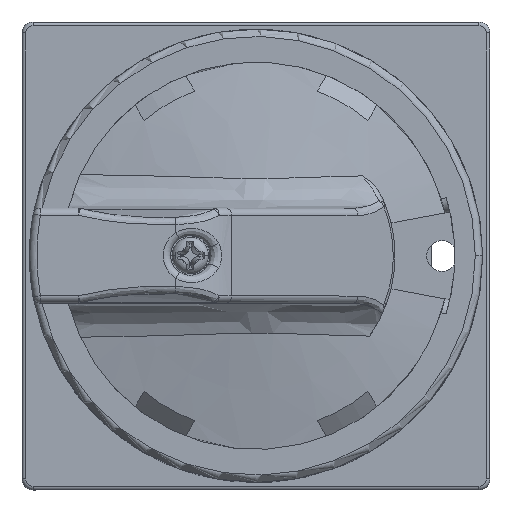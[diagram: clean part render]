
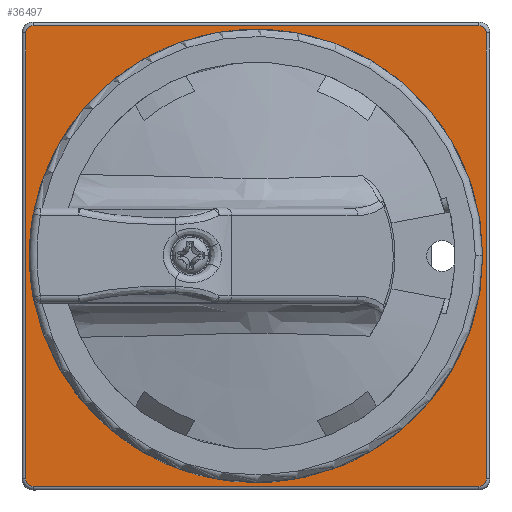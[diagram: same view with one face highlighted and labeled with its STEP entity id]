
A CAD part, top view. The second image highlights one B-rep face of the part: STEP entity #36497.
In plain terms, the highlighted planar face has unit normal (0, 0, 1).
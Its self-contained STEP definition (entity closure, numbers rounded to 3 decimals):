
#2736 = CIRCLE ( 'NONE', #63583, 31. ) ;
#6518 = CARTESIAN_POINT ( 'NONE',  ( 36.861, -35.611, -128.982 ) ) ;
#6716 = EDGE_CURVE ( 'NONE', #50985, #119041, #73628, .T. ) ;
#7394 = ORIENTED_EDGE ( 'NONE', *, *, #16895, .F. ) ;
#8711 = CIRCLE ( 'NONE', #85246, 31. ) ;
#11006 = CIRCLE ( 'NONE', #54121, 1. ) ;
#11140 = CARTESIAN_POINT ( 'NONE',  ( 37.861, -35.611, -128.982 ) ) ;
#13862 = CARTESIAN_POINT ( 'NONE',  ( 37.861, 25.389, -128.982 ) ) ;
#14448 = DIRECTION ( 'NONE',  ( 0., 0., 1. ) ) ;
#14853 = DIRECTION ( 'NONE',  ( 1., 0., 0. ) ) ;
#14948 = CARTESIAN_POINT ( 'NONE',  ( 36.861, 26.389, -128.982 ) ) ;
#16477 = CARTESIAN_POINT ( 'NONE',  ( 37.361, -5.111, -128.982 ) ) ;
#16895 = EDGE_CURVE ( 'NONE', #136521, #49610, #105586, .T. ) ;
#19299 = DIRECTION ( 'NONE',  ( 0., 1., 0. ) ) ;
#20540 = CIRCLE ( 'NONE', #58147, 1. ) ;
#21284 = DIRECTION ( 'NONE',  ( 1., 0., 0. ) ) ;
#22777 = AXIS2_PLACEMENT_3D ( 'NONE', #6518, #54352, #31686 ) ;
#22938 = ORIENTED_EDGE ( 'NONE', *, *, #35065, .T. ) ;
#23389 = FACE_OUTER_BOUND ( 'NONE', #90765, .T. ) ;
#23512 = AXIS2_PLACEMENT_3D ( 'NONE', #140009, #67568, #151367 ) ;
#24473 = CARTESIAN_POINT ( 'NONE',  ( 6.361, -5.111, -128.982 ) ) ;
#25974 = LINE ( 'NONE', #29658, #147441 ) ;
#26861 = AXIS2_PLACEMENT_3D ( 'NONE', #118205, #96468, #14853 ) ;
#28813 = CARTESIAN_POINT ( 'NONE',  ( 6.361, -5.111, -128.982 ) ) ;
#29658 = CARTESIAN_POINT ( 'NONE',  ( 37.861, 25.389, -128.982 ) ) ;
#30221 = VERTEX_POINT ( 'NONE', #43196 ) ;
#31075 = EDGE_CURVE ( 'NONE', #40633, #88138, #61895, .T. ) ;
#31297 = VERTEX_POINT ( 'NONE', #14948 ) ;
#31686 = DIRECTION ( 'NONE',  ( 1., 0., 0. ) ) ;
#32966 = EDGE_CURVE ( 'NONE', #119041, #136521, #8711, .T. ) ;
#33769 = AXIS2_PLACEMENT_3D ( 'NONE', #118800, #14448, #130114 ) ;
#35065 = EDGE_CURVE ( 'NONE', #41500, #31297, #20540, .T. ) ;
#35215 = EDGE_CURVE ( 'NONE', #151938, #41500, #25974, .T. ) ;
#36497 = ADVANCED_FACE ( 'NONE', ( #111522, #23389 ), #137399, .T. ) ;
#38469 = ORIENTED_EDGE ( 'NONE', *, *, #6716, .F. ) ;
#39302 = CARTESIAN_POINT ( 'NONE',  ( 25.196, -29.733, -128.982 ) ) ;
#39641 = ORIENTED_EDGE ( 'NONE', *, *, #31075, .F. ) ;
#39974 = ORIENTED_EDGE ( 'NONE', *, *, #35215, .T. ) ;
#40633 = VERTEX_POINT ( 'NONE', #57822 ) ;
#41500 = VERTEX_POINT ( 'NONE', #13862 ) ;
#42114 = CARTESIAN_POINT ( 'NONE',  ( 6.361, -5.111, -128.982 ) ) ;
#43196 = CARTESIAN_POINT ( 'NONE',  ( -25.139, 25.389, -128.982 ) ) ;
#43721 = VERTEX_POINT ( 'NONE', #88049 ) ;
#46217 = CIRCLE ( 'NONE', #137796, 31. ) ;
#49610 = VERTEX_POINT ( 'NONE', #145164 ) ;
#50985 = VERTEX_POINT ( 'NONE', #39302 ) ;
#52605 = EDGE_CURVE ( 'NONE', #88138, #96905, #151807, .T. ) ;
#54121 = AXIS2_PLACEMENT_3D ( 'NONE', #61496, #63523, #75298 ) ;
#54352 = DIRECTION ( 'NONE',  ( 0., 0., 1. ) ) ;
#54837 = CARTESIAN_POINT ( 'NONE',  ( 6.361, -5.111, -128.982 ) ) ;
#57207 = DIRECTION ( 'NONE',  ( 0., 0., 1. ) ) ;
#57801 = CARTESIAN_POINT ( 'NONE',  ( 6.361, -5.111, -128.982 ) ) ;
#57822 = CARTESIAN_POINT ( 'NONE',  ( -5.545, 23.512, -128.982 ) ) ;
#58147 = AXIS2_PLACEMENT_3D ( 'NONE', #88162, #123185, #110804 ) ;
#58542 = CARTESIAN_POINT ( 'NONE',  ( -24.639, -5.111, -128.982 ) ) ;
#58552 = ORIENTED_EDGE ( 'NONE', *, *, #59823, .T. ) ;
#58685 = CARTESIAN_POINT ( 'NONE',  ( 6.361, -5.111, -128.982 ) ) ;
#59823 = EDGE_CURVE ( 'NONE', #30221, #121292, #113470, .T. ) ;
#61190 = CARTESIAN_POINT ( 'NONE',  ( -24.139, 26.389, -128.982 ) ) ;
#61496 = CARTESIAN_POINT ( 'NONE',  ( -24.139, -35.611, -128.982 ) ) ;
#61895 = CIRCLE ( 'NONE', #33769, 31. ) ;
#63523 = DIRECTION ( 'NONE',  ( 0., 0., 1. ) ) ;
#63583 = AXIS2_PLACEMENT_3D ( 'NONE', #54837, #136991, #66617 ) ;
#63758 = DIRECTION ( 'NONE',  ( 1., 0., 0. ) ) ;
#64692 = AXIS2_PLACEMENT_3D ( 'NONE', #24473, #106192, #141713 ) ;
#65963 = ORIENTED_EDGE ( 'NONE', *, *, #149792, .T. ) ;
#66066 = ORIENTED_EDGE ( 'NONE', *, *, #83028, .F. ) ;
#66617 = DIRECTION ( 'NONE',  ( 1., 0., 0. ) ) ;
#67568 = DIRECTION ( 'NONE',  ( 0., 0., 1. ) ) ;
#67596 = CARTESIAN_POINT ( 'NONE',  ( 36.861, -36.611, -128.982 ) ) ;
#68633 = VECTOR ( 'NONE', #83051, 1000. ) ;
#68996 = DIRECTION ( 'NONE',  ( 1., 0., 0. ) ) ;
#70172 = ORIENTED_EDGE ( 'NONE', *, *, #127679, .T. ) ;
#73628 = CIRCLE ( 'NONE', #23512, 31. ) ;
#75298 = DIRECTION ( 'NONE',  ( 1., 0., 0. ) ) ;
#76040 = AXIS2_PLACEMENT_3D ( 'NONE', #149255, #136880, #138422 ) ;
#79245 = EDGE_CURVE ( 'NONE', #117729, #121596, #123753, .T. ) ;
#80006 = DIRECTION ( 'NONE',  ( 1., 0., 0. ) ) ;
#80510 = DIRECTION ( 'NONE',  ( -1., 0., 0. ) ) ;
#83028 = EDGE_CURVE ( 'NONE', #49610, #40633, #46217, .T. ) ;
#83051 = DIRECTION ( 'NONE',  ( 1., 0., 0. ) ) ;
#84010 = LINE ( 'NONE', #149489, #139321 ) ;
#85246 = AXIS2_PLACEMENT_3D ( 'NONE', #58685, #57207, #68996 ) ;
#88049 = CARTESIAN_POINT ( 'NONE',  ( 18.268, -33.733, -128.982 ) ) ;
#88138 = VERTEX_POINT ( 'NONE', #147313 ) ;
#88162 = CARTESIAN_POINT ( 'NONE',  ( 36.861, 25.389, -128.982 ) ) ;
#89233 = DIRECTION ( 'NONE',  ( 0., 0., 1. ) ) ;
#90765 = EDGE_LOOP ( 'NONE', ( #138910, #65963, #39974, #22938, #70172, #135985, #58552, #101166 ) ) ;
#93620 = EDGE_CURVE ( 'NONE', #96905, #43721, #142717, .T. ) ;
#96468 = DIRECTION ( 'NONE',  ( 0., 0., 1. ) ) ;
#96905 = VERTEX_POINT ( 'NONE', #58542 ) ;
#97338 = CARTESIAN_POINT ( 'NONE',  ( -25.139, -35.611, -128.982 ) ) ;
#100823 = ORIENTED_EDGE ( 'NONE', *, *, #123759, .F. ) ;
#101166 = ORIENTED_EDGE ( 'NONE', *, *, #130590, .T. ) ;
#105586 = CIRCLE ( 'NONE', #64692, 31. ) ;
#106192 = DIRECTION ( 'NONE',  ( 0., 0., 1. ) ) ;
#107064 = VERTEX_POINT ( 'NONE', #61190 ) ;
#110355 = AXIS2_PLACEMENT_3D ( 'NONE', #57801, #128683, #21284 ) ;
#110804 = DIRECTION ( 'NONE',  ( 1., 0., 0. ) ) ;
#111024 = DIRECTION ( 'NONE',  ( 0., 0., 1. ) ) ;
#111522 = FACE_BOUND ( 'NONE', #142926, .T. ) ;
#111911 = CARTESIAN_POINT ( 'NONE',  ( -24.139, -36.611, -128.982 ) ) ;
#113470 = LINE ( 'NONE', #150235, #144745 ) ;
#116061 = AXIS2_PLACEMENT_3D ( 'NONE', #28813, #111024, #63758 ) ;
#117295 = EDGE_CURVE ( 'NONE', #107064, #30221, #143660, .T. ) ;
#117384 = CARTESIAN_POINT ( 'NONE',  ( 25.196, 19.512, -128.982 ) ) ;
#117729 = VERTEX_POINT ( 'NONE', #111911 ) ;
#118089 = CARTESIAN_POINT ( 'NONE',  ( 36.861, -36.611, -128.982 ) ) ;
#118205 = CARTESIAN_POINT ( 'NONE',  ( -24.139, 25.389, -128.982 ) ) ;
#118800 = CARTESIAN_POINT ( 'NONE',  ( 6.361, -5.111, -128.982 ) ) ;
#119041 = VERTEX_POINT ( 'NONE', #16477 ) ;
#121292 = VERTEX_POINT ( 'NONE', #97338 ) ;
#121596 = VERTEX_POINT ( 'NONE', #67596 ) ;
#123185 = DIRECTION ( 'NONE',  ( 0., 0., 1. ) ) ;
#123753 = LINE ( 'NONE', #118089, #68633 ) ;
#123759 = EDGE_CURVE ( 'NONE', #43721, #50985, #2736, .T. ) ;
#126707 = CIRCLE ( 'NONE', #22777, 1. ) ;
#126950 = ORIENTED_EDGE ( 'NONE', *, *, #93620, .F. ) ;
#127679 = EDGE_CURVE ( 'NONE', #31297, #107064, #84010, .T. ) ;
#128683 = DIRECTION ( 'NONE',  ( 0., 0., 1. ) ) ;
#130114 = DIRECTION ( 'NONE',  ( 1., 0., 0. ) ) ;
#130590 = EDGE_CURVE ( 'NONE', #121292, #117729, #11006, .T. ) ;
#135985 = ORIENTED_EDGE ( 'NONE', *, *, #117295, .T. ) ;
#136521 = VERTEX_POINT ( 'NONE', #117384 ) ;
#136880 = DIRECTION ( 'NONE',  ( 0., 0., 1. ) ) ;
#136991 = DIRECTION ( 'NONE',  ( 0., 0., 1. ) ) ;
#137399 = PLANE ( 'NONE',  #76040 ) ;
#137796 = AXIS2_PLACEMENT_3D ( 'NONE', #42114, #89233, #80006 ) ;
#138051 = ORIENTED_EDGE ( 'NONE', *, *, #32966, .F. ) ;
#138422 = DIRECTION ( 'NONE',  ( 1., 0., 0. ) ) ;
#138910 = ORIENTED_EDGE ( 'NONE', *, *, #79245, .T. ) ;
#139321 = VECTOR ( 'NONE', #80510, 1000. ) ;
#140009 = CARTESIAN_POINT ( 'NONE',  ( 6.361, -5.111, -128.982 ) ) ;
#140408 = DIRECTION ( 'NONE',  ( 0., -1., 0. ) ) ;
#141713 = DIRECTION ( 'NONE',  ( 1., 0., 0. ) ) ;
#142717 = CIRCLE ( 'NONE', #116061, 31. ) ;
#142926 = EDGE_LOOP ( 'NONE', ( #7394, #138051, #38469, #100823, #126950, #149024, #39641, #66066 ) ) ;
#143660 = CIRCLE ( 'NONE', #26861, 1. ) ;
#144745 = VECTOR ( 'NONE', #140408, 1000. ) ;
#145164 = CARTESIAN_POINT ( 'NONE',  ( 18.268, 23.512, -128.982 ) ) ;
#147313 = CARTESIAN_POINT ( 'NONE',  ( -12.473, 19.512, -128.982 ) ) ;
#147441 = VECTOR ( 'NONE', #19299, 1000. ) ;
#149024 = ORIENTED_EDGE ( 'NONE', *, *, #52605, .F. ) ;
#149255 = CARTESIAN_POINT ( 'NONE',  ( 36.861, 25.389, -128.982 ) ) ;
#149489 = CARTESIAN_POINT ( 'NONE',  ( -24.139, 26.389, -128.982 ) ) ;
#149792 = EDGE_CURVE ( 'NONE', #121596, #151938, #126707, .T. ) ;
#150235 = CARTESIAN_POINT ( 'NONE',  ( -25.139, -35.611, -128.982 ) ) ;
#151367 = DIRECTION ( 'NONE',  ( 1., 0., 0. ) ) ;
#151807 = CIRCLE ( 'NONE', #110355, 31. ) ;
#151938 = VERTEX_POINT ( 'NONE', #11140 ) ;
